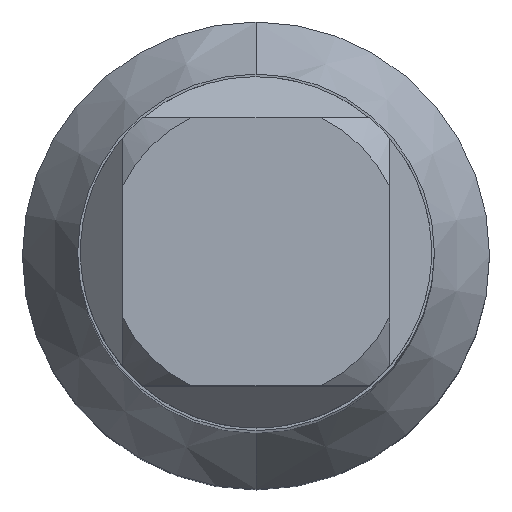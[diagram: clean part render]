
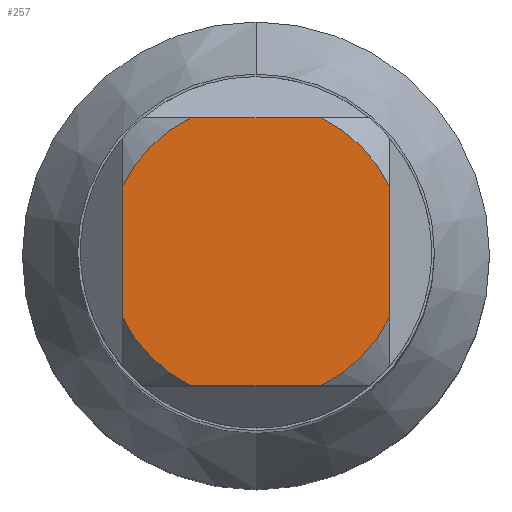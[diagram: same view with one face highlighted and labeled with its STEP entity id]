
A CAD part, top view. The second image highlights one B-rep face of the part: STEP entity #257.
In plain terms, the highlighted planar face has unit normal (0, 0, 1).
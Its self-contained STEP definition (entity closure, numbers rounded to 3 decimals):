
#21 = ORIENTED_EDGE ( 'NONE', *, *, #40, .T. ) ;
#40 = EDGE_CURVE ( 'NONE', #91, #1078, #508, .T. ) ;
#52 = VERTEX_POINT ( 'NONE', #174 ) ;
#63 = CARTESIAN_POINT ( 'NONE',  ( 0., -6., 75. ) ) ;
#91 = VERTEX_POINT ( 'NONE', #680 ) ;
#108 = DIRECTION ( 'NONE',  ( 1., 0., 0. ) ) ;
#142 = VERTEX_POINT ( 'NONE', #145 ) ;
#145 = CARTESIAN_POINT ( 'NONE',  ( 2.925, 6., 75. ) ) ;
#148 = CARTESIAN_POINT ( 'NONE',  ( 0., 0., 75. ) ) ;
#152 = DIRECTION ( 'NONE',  ( 0., 1., 0. ) ) ;
#154 = DIRECTION ( 'NONE',  ( 0., 0., -1. ) ) ;
#174 = CARTESIAN_POINT ( 'NONE',  ( -6., 2.925, 75. ) ) ;
#239 = ORIENTED_EDGE ( 'NONE', *, *, #895, .F. ) ;
#257 = ADVANCED_FACE ( 'NONE', ( #637 ), #408, .F. ) ;
#265 = VERTEX_POINT ( 'NONE', #431 ) ;
#331 = VERTEX_POINT ( 'NONE', #375 ) ;
#346 = AXIS2_PLACEMENT_3D ( 'NONE', #148, #154, #152 ) ;
#349 = VECTOR ( 'NONE', #535, 1000. ) ;
#375 = CARTESIAN_POINT ( 'NONE',  ( -6., -2.925, 75. ) ) ;
#378 = DIRECTION ( 'NONE',  ( 0., 1., 0. ) ) ;
#399 = CARTESIAN_POINT ( 'NONE',  ( 0., 0., 75. ) ) ;
#402 = ORIENTED_EDGE ( 'NONE', *, *, #1364, .T. ) ;
#403 = DIRECTION ( 'NONE',  ( 0., 0., -1. ) ) ;
#408 = PLANE ( 'NONE',  #747 ) ;
#431 = CARTESIAN_POINT ( 'NONE',  ( 6., -2.925, 75. ) ) ;
#474 = CARTESIAN_POINT ( 'NONE',  ( -6., 0., 75. ) ) ;
#508 = LINE ( 'NONE', #63, #957 ) ;
#531 = CIRCLE ( 'NONE', #1031, 6.675 ) ;
#534 = DIRECTION ( 'NONE',  ( -1., 0., 0. ) ) ;
#535 = DIRECTION ( 'NONE',  ( 0., -1., 0. ) ) ;
#553 = EDGE_CURVE ( 'NONE', #265, #1078, #892, .T. ) ;
#563 = VERTEX_POINT ( 'NONE', #693 ) ;
#578 = CARTESIAN_POINT ( 'NONE',  ( 0., 6., 75. ) ) ;
#600 = CARTESIAN_POINT ( 'NONE',  ( 0., 0., 75. ) ) ;
#608 = DIRECTION ( 'NONE',  ( 0., 0., -1. ) ) ;
#611 = DIRECTION ( 'NONE',  ( 0., 1., 0. ) ) ;
#627 = EDGE_LOOP ( 'NONE', ( #1291, #402, #239, #1007, #877, #1360, #1231, #21 ) ) ;
#637 = FACE_OUTER_BOUND ( 'NONE', #627, .T. ) ;
#680 = CARTESIAN_POINT ( 'NONE',  ( -2.925, -6., 75. ) ) ;
#693 = CARTESIAN_POINT ( 'NONE',  ( -2.925, 6., 75. ) ) ;
#701 = LINE ( 'NONE', #474, #349 ) ;
#731 = VECTOR ( 'NONE', #534, 1000. ) ;
#747 = AXIS2_PLACEMENT_3D ( 'NONE', #399, #403, #378 ) ;
#752 = DIRECTION ( 'NONE',  ( 0., 1., 0. ) ) ;
#794 = EDGE_CURVE ( 'NONE', #52, #331, #701, .T. ) ;
#843 = EDGE_CURVE ( 'NONE', #142, #563, #995, .T. ) ;
#848 = EDGE_CURVE ( 'NONE', #91, #331, #1032, .T. ) ;
#854 = CARTESIAN_POINT ( 'NONE',  ( 0., 0., 75. ) ) ;
#858 = DIRECTION ( 'NONE',  ( 0., 0., -1. ) ) ;
#861 = DIRECTION ( 'NONE',  ( 0., 1., 0. ) ) ;
#877 = ORIENTED_EDGE ( 'NONE', *, *, #1185, .F. ) ;
#892 = CIRCLE ( 'NONE', #346, 6.675 ) ;
#895 = EDGE_CURVE ( 'NONE', #142, #1049, #1150, .T. ) ;
#934 = VECTOR ( 'NONE', #752, 1000. ) ;
#957 = VECTOR ( 'NONE', #108, 1000. ) ;
#995 = LINE ( 'NONE', #578, #731 ) ;
#1007 = ORIENTED_EDGE ( 'NONE', *, *, #843, .T. ) ;
#1010 = LINE ( 'NONE', #1321, #934 ) ;
#1031 = AXIS2_PLACEMENT_3D ( 'NONE', #1203, #1209, #1210 ) ;
#1032 = CIRCLE ( 'NONE', #1326, 6.675 ) ;
#1049 = VERTEX_POINT ( 'NONE', #1077 ) ;
#1077 = CARTESIAN_POINT ( 'NONE',  ( 6., 2.925, 75. ) ) ;
#1078 = VERTEX_POINT ( 'NONE', #1102 ) ;
#1102 = CARTESIAN_POINT ( 'NONE',  ( 2.925, -6., 75. ) ) ;
#1139 = AXIS2_PLACEMENT_3D ( 'NONE', #854, #858, #861 ) ;
#1150 = CIRCLE ( 'NONE', #1139, 6.675 ) ;
#1185 = EDGE_CURVE ( 'NONE', #52, #563, #531, .T. ) ;
#1203 = CARTESIAN_POINT ( 'NONE',  ( 0., 0., 75. ) ) ;
#1209 = DIRECTION ( 'NONE',  ( 0., 0., -1. ) ) ;
#1210 = DIRECTION ( 'NONE',  ( 0., 1., 0. ) ) ;
#1231 = ORIENTED_EDGE ( 'NONE', *, *, #848, .F. ) ;
#1291 = ORIENTED_EDGE ( 'NONE', *, *, #553, .F. ) ;
#1321 = CARTESIAN_POINT ( 'NONE',  ( 6., 0., 75. ) ) ;
#1326 = AXIS2_PLACEMENT_3D ( 'NONE', #600, #608, #611 ) ;
#1360 = ORIENTED_EDGE ( 'NONE', *, *, #794, .T. ) ;
#1364 = EDGE_CURVE ( 'NONE', #265, #1049, #1010, .T. ) ;
